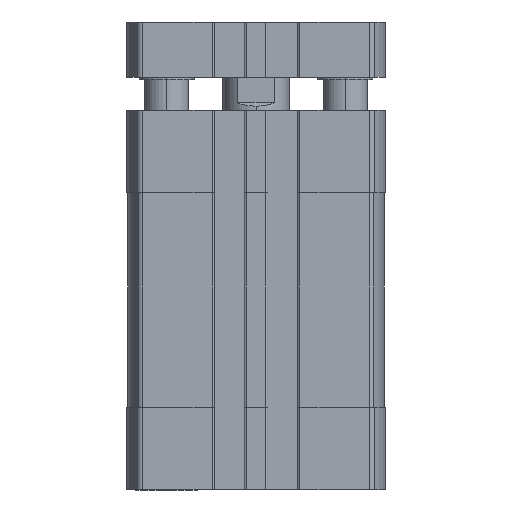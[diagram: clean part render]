
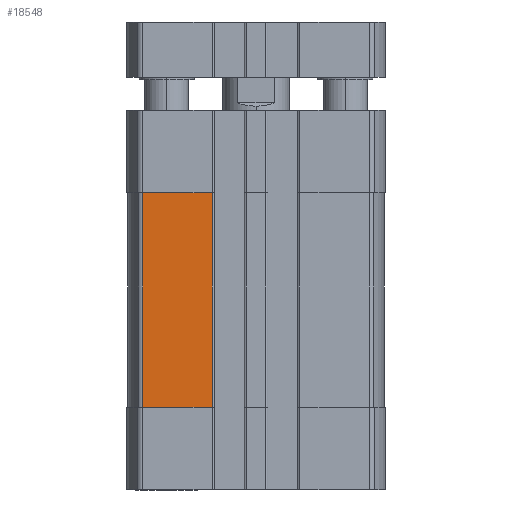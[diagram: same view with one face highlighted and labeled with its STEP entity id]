
A CAD part, front view. The second image highlights one B-rep face of the part: STEP entity #18548.
In plain terms, the highlighted planar face has unit normal (0, -1, 0) as drawn and (-1, 0, 0) by its records, which use the part's own axes.
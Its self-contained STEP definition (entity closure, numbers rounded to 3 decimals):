
#411 = ORIENTED_EDGE ( 'NONE', *, *, #6801, .T. ) ;
#1209 = CARTESIAN_POINT ( 'NONE',  ( -23.25, 20.543, -54. ) ) ;
#2253 = CARTESIAN_POINT ( 'NONE',  ( -23.25, 7.95, -54. ) ) ;
#2984 = DIRECTION ( 'NONE',  ( -1., 0., 0. ) ) ;
#3683 = VERTEX_POINT ( 'NONE', #11244 ) ;
#3824 = EDGE_CURVE ( 'NONE', #3683, #6247, #16003, .T. ) ;
#4066 = ORIENTED_EDGE ( 'NONE', *, *, #3824, .T. ) ;
#4811 = DIRECTION ( 'NONE',  ( 0., 0., -1. ) ) ;
#5811 = VECTOR ( 'NONE', #20624, 1000. ) ;
#6206 = LINE ( 'NONE', #2253, #19912 ) ;
#6247 = VERTEX_POINT ( 'NONE', #9267 ) ;
#6801 = EDGE_CURVE ( 'NONE', #22625, #3683, #13635, .T. ) ;
#7274 = CARTESIAN_POINT ( 'NONE',  ( -23.25, 7.95, -15. ) ) ;
#8794 = VECTOR ( 'NONE', #4811, 1000. ) ;
#9267 = CARTESIAN_POINT ( 'NONE',  ( -23.25, 7.95, -54. ) ) ;
#9279 = DIRECTION ( 'NONE',  ( 0., 0., -1. ) ) ;
#11103 = ORIENTED_EDGE ( 'NONE', *, *, #20312, .T. ) ;
#11173 = EDGE_LOOP ( 'NONE', ( #4066, #18727, #11103, #411 ) ) ;
#11244 = CARTESIAN_POINT ( 'NONE',  ( -23.25, 20.543, -54. ) ) ;
#11809 = VERTEX_POINT ( 'NONE', #7274 ) ;
#13635 = LINE ( 'NONE', #15606, #8794 ) ;
#13717 = PLANE ( 'NONE',  #20848 ) ;
#14742 = VECTOR ( 'NONE', #17102, 1000. ) ;
#15318 = CARTESIAN_POINT ( 'NONE',  ( -23.25, 0., -15. ) ) ;
#15552 = DIRECTION ( 'NONE',  ( 0., 0., 1. ) ) ;
#15606 = CARTESIAN_POINT ( 'NONE',  ( -23.25, 20.543, -54. ) ) ;
#16003 = LINE ( 'NONE', #18850, #5811 ) ;
#16975 = FACE_OUTER_BOUND ( 'NONE', #11173, .T. ) ;
#17102 = DIRECTION ( 'NONE',  ( 0., 1., 0. ) ) ;
#18548 = ADVANCED_FACE ( 'NONE', ( #16975 ), #13717, .T. ) ;
#18727 = ORIENTED_EDGE ( 'NONE', *, *, #21514, .F. ) ;
#18850 = CARTESIAN_POINT ( 'NONE',  ( -23.25, 20.543, -54. ) ) ;
#19416 = LINE ( 'NONE', #15318, #14742 ) ;
#19912 = VECTOR ( 'NONE', #9279, 1000. ) ;
#20312 = EDGE_CURVE ( 'NONE', #11809, #22625, #19416, .T. ) ;
#20624 = DIRECTION ( 'NONE',  ( 0., -1., 0. ) ) ;
#20848 = AXIS2_PLACEMENT_3D ( 'NONE', #1209, #2984, #15552 ) ;
#21134 = CARTESIAN_POINT ( 'NONE',  ( -23.25, 20.543, -15. ) ) ;
#21514 = EDGE_CURVE ( 'NONE', #11809, #6247, #6206, .T. ) ;
#22625 = VERTEX_POINT ( 'NONE', #21134 ) ;
